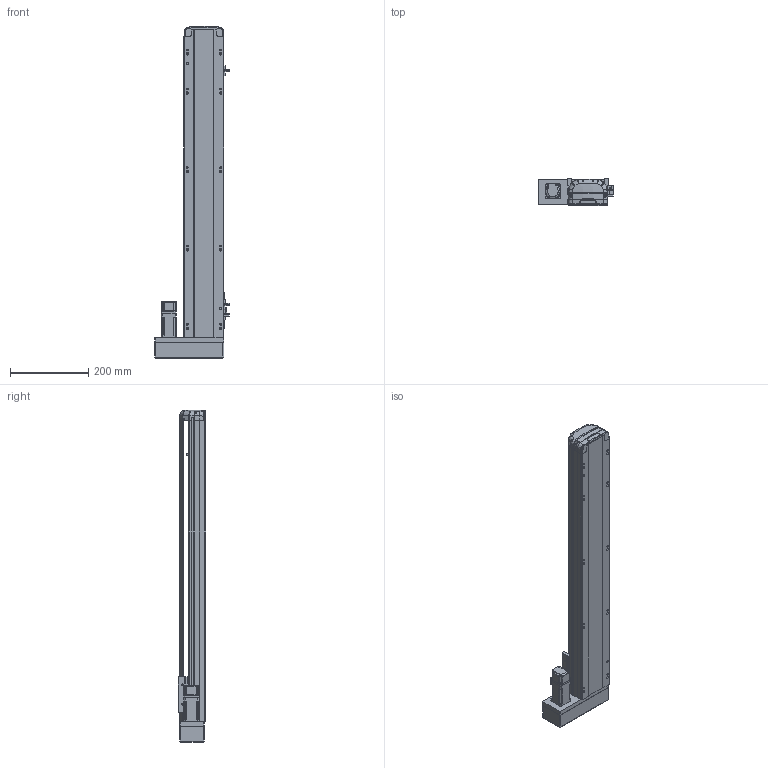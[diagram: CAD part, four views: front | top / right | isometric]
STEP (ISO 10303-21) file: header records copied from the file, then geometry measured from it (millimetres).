
FILE_DESCRIPTION (( 'STEP AP214' ), '1' );
FILE_NAME ('RTH10-XX-600-L-M10-C4.STEP', '2025-10-25T05:35:40', ( 'Microsoft' ), ( 'Microsoft' ), 'SwSTEP 2.0', 'SolidWorks 2018', '' );
FILE_SCHEMA (( 'AUTOMOTIVE_DESIGN' ));
Length unit declared in the file: millimetre
Products named in the file (10): N_RTH12-L-008萇儂啣^RTH10-XX-XX-L-M10-C4; N_P10^RTH10-XX-XX-L-M10-C4; N_RTH12-M-011P-臏倰第菁釱^RTH10-XX-XX-L-M10-C4; N_RTH12-M-007P-奻裔^RTH10-XX-XX-L-M10-C4; N_OMRON EE-SX672 传感器^RTH10-XX-XX-L-M10-C4; N_RTH12-GY-004-賑釱^RTH10-XX-XX-L-M10-C4; N_RTH12-L-018-裔赽^RTH10-XX-XX-L-M10-C4; RTH10-XX-600-L-M10-C4; N_RTH13-L-012覜茼え俋离^RTH10-XX-XX-L-M10-C4; N_RTH12-GY-001P^RTH10-XX-XX-L-M10-C4
Assembly tree (11 placements, depth 2):
  RTH10-XX-600-L-M10-C4
    N_RTH12-M-011P-臏倰第菁釱^RTH10-XX-XX-L-M10-C4
    N_RTH13-L-012覜茼え俋离^RTH10-XX-XX-L-M10-C4
    N_OMRON EE-SX672 传感器^RTH10-XX-XX-L-M10-C4  x3
    N_P10^RTH10-XX-XX-L-M10-C4
    N_RTH12-M-007P-奻裔^RTH10-XX-XX-L-M10-C4
    N_RTH12-L-008萇儂啣^RTH10-XX-XX-L-M10-C4
    N_RTH12-L-018-裔赽^RTH10-XX-XX-L-M10-C4
    N_RTH12-GY-004-賑釱^RTH10-XX-XX-L-M10-C4
    N_RTH12-GY-001P^RTH10-XX-XX-L-M10-C4
Bounding box: 190 x 70 x 847.14 mm (x, y, z)
Volume: 3746047.7 mm3; surface area: 580157.6 mm2
Topology: 10 solids, 12 shells, 1920 faces, 5356 edges, 3513 vertices
Faces by surface type: plane 947, bspline 472, cylinder 466, cone 29, sphere 4, torus 2
Entity records: 57748 total; most frequent: CARTESIAN_POINT 23089, ORIENTED_EDGE 7784, DIRECTION 5958, EDGE_CURVE 3898, VERTEX_POINT 2557, LINE 2042, VECTOR 2042, AXIS2_PLACEMENT_3D 1958
